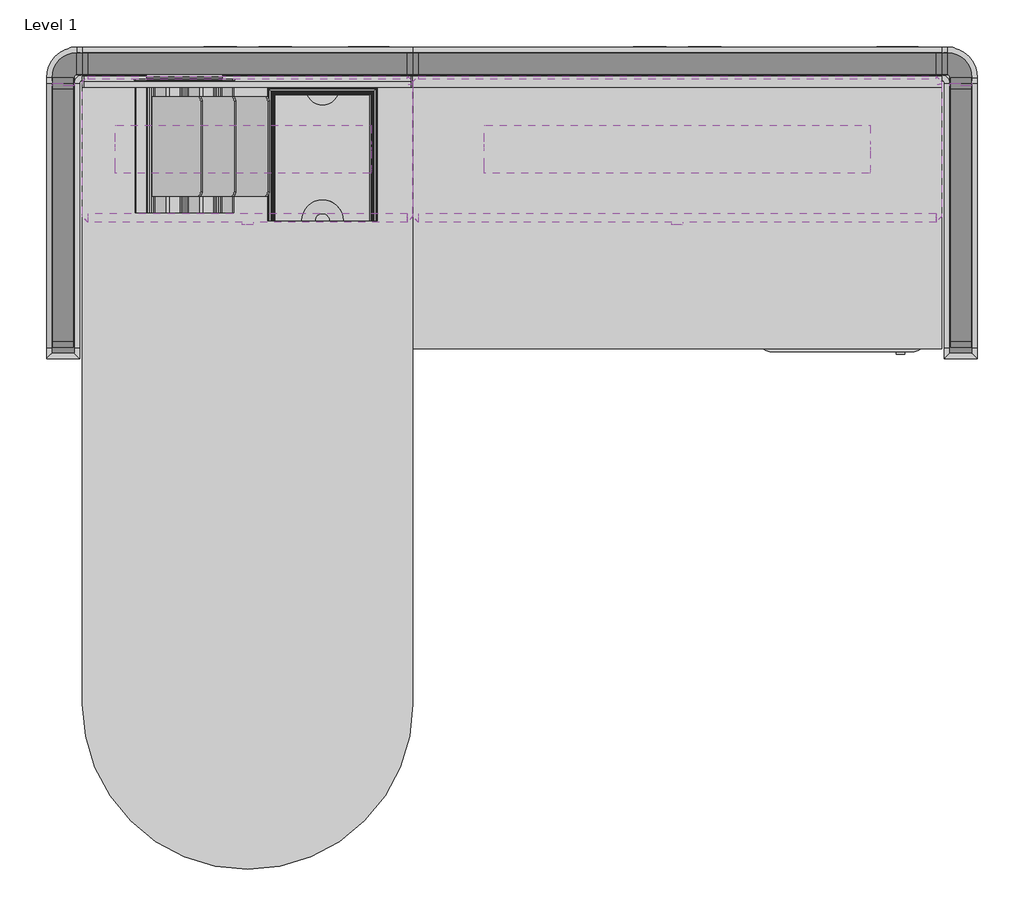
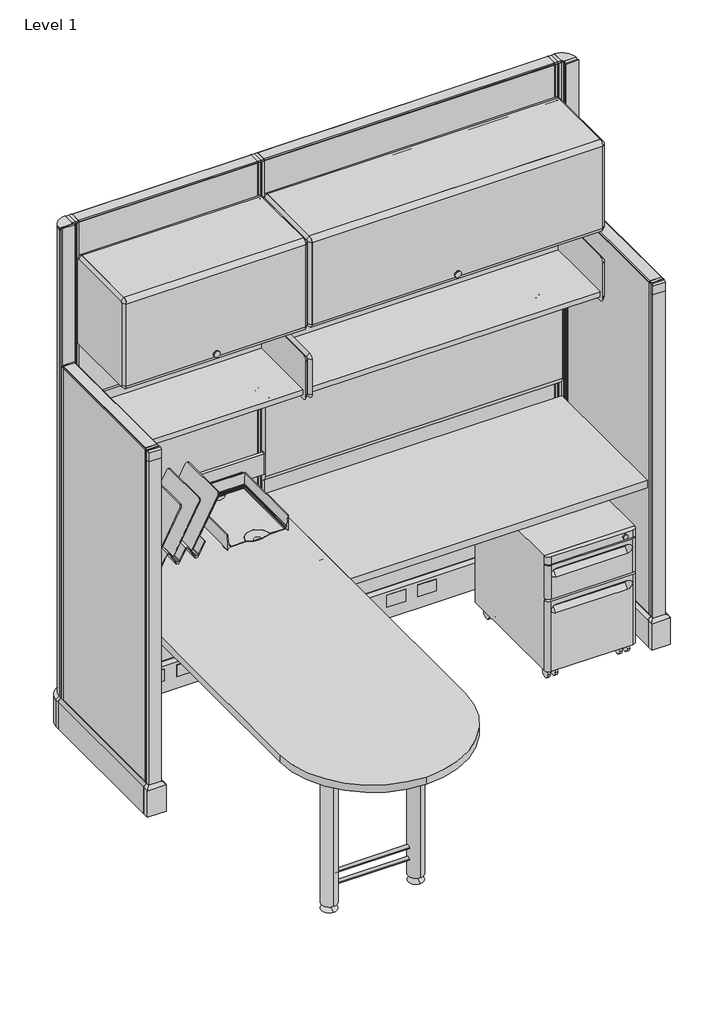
# One storey, incomplete: 21 furniture elements, 2 light fixtures.
"""IFC4 building model written with IfcOpenShell, lengths in millimetres."""

from ifc_helpers import new_model, si_unit, origin, place, context, project, spatial, transform, mapped, element, save
from components import furniture_75fc3fe0, furniture_a2665887, furniture_cb78dd66, furniture_d9179111, furniture_33cd207f, furniture_083a197f, furniture_0d5b5ade, furniture_a8f42cb3, furniture_4d9edb30, furniture_2231b875, furniture_0882e81d, furniture_314199cd, furniture_9b7a8d55, furniture_84c54a78, furniture_fb8f7aeb, furniture_f05ba5ec, furniture_0fa552dd, furniture_d6d106ba, light_fixture_d29e1486, light_fixture_b5f3cc62

model = new_model("IFC4")

# Units and contexts
model_context = context("Model", 3, world=origin())
ifc_project = project(units=[si_unit("LENGTHUNIT", "METRE", prefix="MILLI")], contexts=[model_context])

# Site, building, storey
site = spatial("IfcSite", under=ifc_project)
building = spatial("IfcBuilding", under=site)
storey = spatial("IfcBuildingStorey", under=building, Name="Level 1", Elevation=0.0)

# Furniture
placement = place(None, origin())
furniture_shape = furniture_75fc3fe0(model_context)
element("IfcFurniture", 1, ObjectType="HermanMiller_ThrivePortfolio_Y7218_DiagonalTray : 8 1/2\"H x 12\"D x 13\"W", at=placement, inside=storey, context=model_context, shape_type="MappedRepresentation", body=[
    mapped(furniture_shape, transform((235.320597, -224.45726, 0.0), x_axis=(1.0, 0.0, 0.0), y_axis=(0.0, 1.0, 0.0), z_axis=(0.0, 0.0, 1.0))),
])
furniture_2_shape = furniture_a2665887(model_context)
element("IfcFurniture", 2, ObjectType="HermanMiller_ThrivePortfolio_Y7216_PaperTray : 3\"H x 12\"D x 10\"W", at=placement, inside=storey, context=model_context, shape_type="MappedRepresentation", body=[
    mapped(furniture_2_shape, transform((553.44822, -243.50726, 0.0), x_axis=(1.0, 0.0, 0.0), y_axis=(0.0, 1.0, 0.0), z_axis=(0.0, 0.0, 1.0))),
])
furniture_3_shape = furniture_cb78dd66(model_context)
element("IfcFurniture", 3, ObjectType="HermanMiller_ActionOffice_A3410_B-StyleTackboard : 16\"H x 48\"W", at=placement, inside=storey, context=model_context, shape_type="MappedRepresentation", body=[
    mapped(furniture_3_shape, transform((1371.6, -76.61656, 0.0), x_axis=(1.0, 0.0, 0.0), y_axis=(0.0, 1.0, 0.0), z_axis=(0.0, 0.0, 1.0))),
])
furniture_4_shape = furniture_d9179111(model_context)
element("IfcFurniture", 4, ObjectType="HermanMiller_ActionOffice_A3220_B-StyleStorageDisplay : Shelf 13\"D x 48\"W", at=placement, inside=storey, context=model_context, shape_type="MappedRepresentation", body=[
    mapped(furniture_4_shape, transform((1495.5420045, -244.89156, 0.0), x_axis=(1.0, 0.0, 0.0), y_axis=(0.0, 1.0, 0.0), z_axis=(0.0, 0.0, 1.0))),
])
furniture_5_shape = furniture_33cd207f(model_context)
element("IfcFurniture", 5, ObjectType="HermanMiller_ActionOffice_A3352_B-StyleFlipperDoorUnit : 15 1/2\"H x 13\"D x 48\"W", at=placement, inside=storey, context=model_context, shape_type="MappedRepresentation", body=[
    mapped(furniture_5_shape, transform((1371.6, -244.89156, 0.0), x_axis=(1.0, 0.0, 0.0), y_axis=(0.0, 1.0, 0.0), z_axis=(0.0, 0.0, 1.0))),
])
furniture_6_shape = furniture_083a197f(model_context)
element("IfcFurniture", 6, ObjectType="HermanMiller_ActionOffice_A2310_Sq-EdgeRectangularWorkSurface : 24\"D x 48\"W", at=placement, inside=storey, context=model_context, shape_type="MappedRepresentation", body=[
    mapped(furniture_6_shape, transform((1371.6, -378.24156, 0.0), x_axis=(1.0, 0.0, 0.0), y_axis=(0.0, 1.0, 0.0), z_axis=(0.0, 0.0, 1.0))),
])
furniture_7_shape = furniture_0d5b5ade(model_context)
element("IfcFurniture", 7, ObjectType="HermanMiller_ActionOffice_A3352_B-StyleFlipperDoorUnit : 15 1/2\"H x 13\"D x 30\"W", at=placement, inside=storey, context=model_context, shape_type="MappedRepresentation", body=[
    mapped(furniture_7_shape, transform((381.0, -244.89156, 0.0), x_axis=(1.0, 0.0, 0.0), y_axis=(0.0, 1.0, 0.0), z_axis=(0.0, 0.0, 1.0))),
])
furniture_8_shape = furniture_a8f42cb3(model_context)
element("IfcFurniture", 8, ObjectType="HermanMiller_ActionOffice_A3220_B-StyleStorageDisplay : Shelf 13\"D x 30\"W", at=placement, inside=storey, context=model_context, shape_type="MappedRepresentation", body=[
    mapped(furniture_8_shape, transform((504.9420045, -244.89156, 0.0), x_axis=(1.0, 0.0, 0.0), y_axis=(0.0, 1.0, 0.0), z_axis=(0.0, 0.0, 1.0))),
])
furniture_9_shape = furniture_4d9edb30(model_context)
element("IfcFurniture", 9, ObjectType="HermanMiller_ActionOffice_A3610_ToolBar : 4\"H x 30\"W", at=placement, inside=storey, context=model_context, shape_type="MappedRepresentation", body=[
    mapped(furniture_9_shape, transform((381.0, -76.6165596, 0.0), x_axis=(1.0, 0.0, 0.0), y_axis=(0.0, 1.0, 0.0), z_axis=(0.0, 0.0, 1.0))),
])
furniture_10_shape = furniture_2231b875(model_context)
element("IfcFurniture", 10, ObjectType="HermanMiller_ActionOffice_A2350_Sq-EdgeRound-EndPeninsula : 30\"D x 72\"W", at=placement, inside=storey, context=model_context, shape_type="MappedRepresentation", body=[
    mapped(furniture_10_shape, transform((381.0, -444.91656, 0.0), x_axis=(1.0, 0.0, 0.0), y_axis=(0.0, 1.0, 0.0), z_axis=(0.0, 0.0, 1.0))),
])
furniture_11_shape = furniture_0882e81d(model_context)
element("IfcFurniture", 11, ObjectType="HermanMiller_ActionOffice_A1110_Hard-SurfacedPanelStandardBase : 62\"H x 24\"W-N", at=placement, inside=storey, context=model_context, shape_type="MappedRepresentation", body=[
    mapped(furniture_11_shape, transform((2025.6493612, -384.59156, 0.0), x_axis=(0.0, -1.0, 0.0), y_axis=(1.0, 0.0, 0.0), z_axis=(0.0, 0.0, 1.0))),
])
element("IfcFurniture", 12, ObjectType="HermanMiller_ActionOffice_A1110_Hard-SurfacedPanelStandardBase : 62\"H x 24\"W-N", at=placement, inside=storey, context=model_context, shape_type="MappedRepresentation", body=[
    mapped(furniture_11_shape, transform((-44.45, -384.59156, 0.0), x_axis=(0.0, 1.0, 0.0), y_axis=(-1.0, 0.0, 0.0), z_axis=(0.0, 0.0, 1.0))),
])
furniture_12_shape = furniture_314199cd(model_context)
element("IfcFurniture", 13, ObjectType="HermanMiller_ActionOffice_A1110_Hard-SurfacedPanelStandardBase : 85\"H x 30\"W-G", at=placement, inside=storey, context=model_context, shape_type="MappedRepresentation", body=[
    mapped(furniture_12_shape, transform((381.0, -35.34156, 0.0), x_axis=(1.0, 0.0, 0.0), y_axis=(0.0, 1.0, 0.0), z_axis=(0.0, 0.0, 1.0))),
])
furniture_13_shape = furniture_9b7a8d55(model_context)
element("IfcFurniture", 14, ObjectType="HermanMiller_ActionOffice_A1110_Hard-SurfacedPanelStandardBase : 85\"H x 48\"W-G", at=placement, inside=storey, context=model_context, shape_type="MappedRepresentation", body=[
    mapped(furniture_13_shape, transform((1371.6, -35.34156, 0.0), x_axis=(1.0, 0.0, 0.0), y_axis=(0.0, 1.0, 0.0), z_axis=(0.0, 0.0, 1.0))),
])
furniture_14_shape = furniture_84c54a78(model_context)
element("IfcFurniture", 15, ObjectType="HermanMiller_QuadrantFiling_G5111_MobilePedestal : 21-1/2\"H x 20\"D x 15\"W BF", at=placement, inside=storey, context=model_context, shape_type="MappedRepresentation", body=[
    mapped(furniture_14_shape, transform((1751.53066, -435.249323, 0.0), x_axis=(1.0, 0.0, 0.0), y_axis=(0.0, 1.0, 0.0), z_axis=(0.0, 0.0, 1.0))),
])
furniture_15_shape = furniture_fb8f7aeb(model_context)
element("IfcFurniture", 16, ObjectType="HermanMiller_ActionOffice_AO259_AO272_FinishedEndChangeOfHeight : 32\"H Panel/Conn", at=placement, inside=storey, context=model_context, shape_type="MappedRepresentation", body=[
    mapped(furniture_15_shape, transform((2105.2203578, -19.2705633, 0.0), x_axis=(0.0, 1.0, 0.0), y_axis=(-1.0, 0.0, 0.0), z_axis=(0.0, 0.0, 1.0))),
])
furniture_16_shape = furniture_f05ba5ec(model_context)
element("IfcFurniture", 17, ObjectType="HermanMiller_ActionOffice_AO259_AO272_FinishedEndChangeOfHeight : 32\"H Panel/Conn", at=placement, inside=storey, context=model_context, shape_type="MappedRepresentation", body=[
    mapped(furniture_16_shape, transform((35.1209967, -19.6871233, 0.0), x_axis=(0.0, 1.0, 0.0), y_axis=(-1.0, 0.0, 0.0), z_axis=(0.0, 0.0, 1.0))),
])
furniture_17_shape = furniture_0fa552dd(model_context)
element("IfcFurniture", 18, ObjectType="HermanMiller_ActionOffice_A1271_FinishedEndStandardBase : 62\"H", at=placement, inside=storey, context=model_context, shape_type="MappedRepresentation", body=[
    mapped(furniture_17_shape, transform((4474.3881489, 1295.4644912, 0.0), x_axis=(0.0, -1.0, 0.0), y_axis=(1.0, 0.0, 0.0), z_axis=(0.0, 0.0, 1.0))),
])
element("IfcFurniture", 19, ObjectType="HermanMiller_ActionOffice_A1271_FinishedEndStandardBase : 62\"H", at=placement, inside=storey, context=model_context, shape_type="MappedRepresentation", body=[
    mapped(furniture_17_shape, transform((2404.2887877, 1295.4644912, 0.0), x_axis=(0.0, -1.0, 0.0), y_axis=(1.0, 0.0, 0.0), z_axis=(0.0, 0.0, 1.0))),
])
furniture_18_shape = furniture_d6d106ba(model_context)
element("IfcFurniture", 20, ObjectType="HermanMiller_ActionOffice_A1220_90ConnectorStandardBase : 85\"H 2-Way-Hard", at=placement, inside=storey, context=model_context, shape_type="MappedRepresentation", body=[
    mapped(furniture_18_shape, transform((2019.3, -49.8555014, 0.0), x_axis=(1.0, 0.0, 0.0), y_axis=(0.0, 1.0, 0.0), z_axis=(0.0, 0.0, 1.0))),
])
element("IfcFurniture", 21, ObjectType="HermanMiller_ActionOffice_A1220_90ConnectorStandardBase : 85\"H 2-Way-Hard", at=placement, inside=storey, context=model_context, shape_type="MappedRepresentation", body=[
    mapped(furniture_18_shape, transform((-29.9360586, -41.69156, 0.0), x_axis=(0.0, 1.0, 0.0), y_axis=(-1.0, 0.0, 0.0), z_axis=(0.0, 0.0, 1.0))),
])

# Light fixtures
light_fixture_shape = light_fixture_d29e1486(model_context)
element("IfcLightFixture", 22, ObjectType="HermanMiller_SupplementalProducts_G6136_UtilityTaskLight : AO Etho Canvas 42W", at=placement, inside=storey, context=model_context, shape_type="MappedRepresentation", body=[
    mapped(light_fixture_shape, transform((1371.6, -232.19156, 0.0), x_axis=(1.0, 0.0, 0.0), y_axis=(0.0, 1.0, 0.0), z_axis=(0.0, 0.0, 1.0))),
])
light_fixture_2_shape = light_fixture_b5f3cc62(model_context)
element("IfcLightFixture", 23, ObjectType="HermanMiller_SupplementalProducts_G6136_UtilityTaskLight : AO Etho Canvas 30W", at=placement, inside=storey, context=model_context, shape_type="MappedRepresentation", body=[
    mapped(light_fixture_2_shape, transform((370.77142, -232.19156, 0.0), x_axis=(1.0, 0.0, 0.0), y_axis=(0.0, 1.0, 0.0), z_axis=(0.0, 0.0, 1.0))),
])

save(model, "model.ifc")
